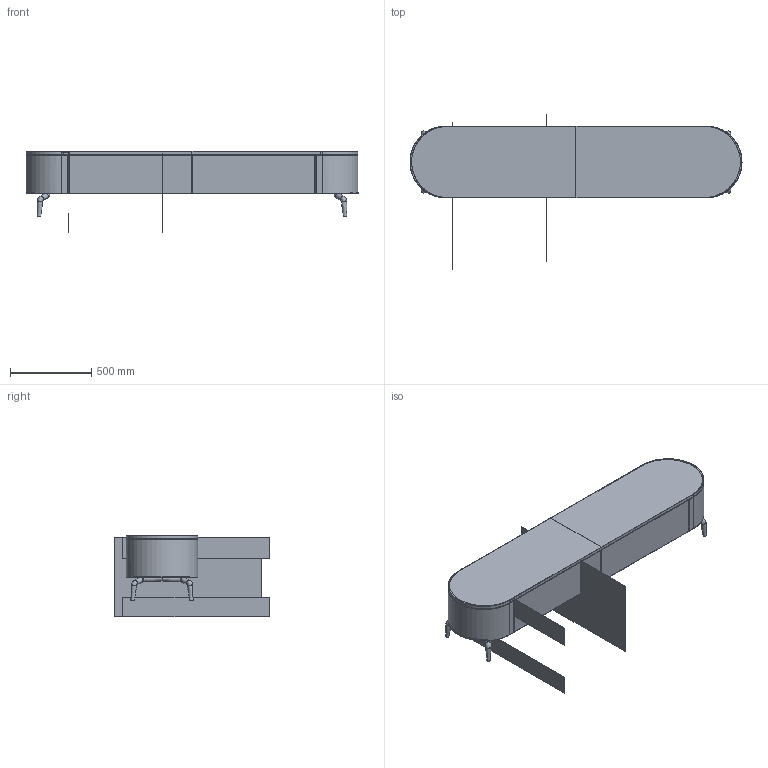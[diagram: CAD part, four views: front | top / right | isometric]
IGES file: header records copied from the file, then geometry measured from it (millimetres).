
Global section: file name: 16HC:\Users\Monika; native system: Rhinoceros ( Feb  8 2022 ); preprocessor: Trout Lake IGES 012 Feb  8 2022; date: 231004.113427; units: millimetre
Bounding box: 2040 x 950 x 501.54 mm (x, y, z)
Surface area: 11415641.1 mm2 (no closed solid volume)
Topology: 0 solids, 0 shells, 184 faces, 1988 edges, 1974 vertices
Faces by surface type: bspline 184
